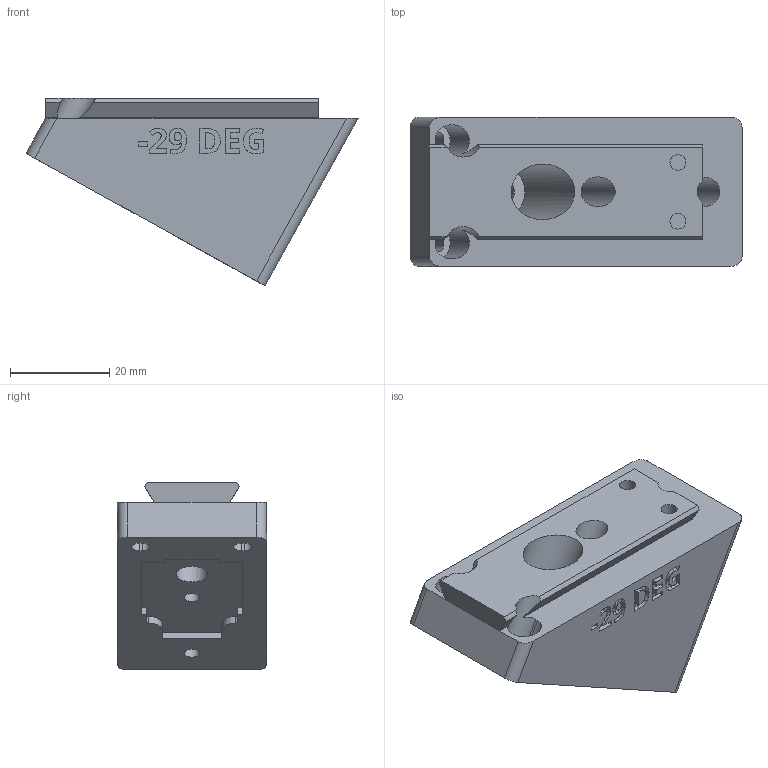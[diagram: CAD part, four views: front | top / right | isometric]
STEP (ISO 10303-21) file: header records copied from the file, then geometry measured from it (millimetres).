
FILE_DESCRIPTION(/* description */ ('STEP AP242 Edition 2','CAx-IF Rec.Pracs.---Representation and Presentation of Product Manufacturing Information (PMI)---4.0---2014-10-13','CAx-IF Rec.Pracs.---3D Tessellated Geometry---0.4---2014-09-14','2;1','CAx-IF Rec.Pracs.---User Defined Attributes---1.5---2016-08-15'),/* implementation_level */ '2;1');
FILE_NAME(/* name */ 'Camera Wedges - CAMERA MOUNTING WEDGE, NEG, -29 DEG',/* time_stamp */ '2026-08-11T00:07:43Z',/* author */ (''),/* organization */ (''),/* preprocessor_version */ 'ST-DEVELOPER v20',/* originating_system */ 'ONSHAPE BY PTC INC, 1.219',/* authorisation */ ' ');
FILE_SCHEMA (('AP242_MANAGED_MODEL_BASED_3D_ENGINEERING_MIM_LF { 1 0 10303 442 3 1 4 }'));
Length unit declared in the file: metre
Products named in the file (1): CAMERA MOUNTING WEDGE, NEG, -29 DEG
Bounding box: 66.77 x 30 x 37.77 mm (x, y, z)
Volume: 37119 mm3; surface area: 10671.5 mm2
Topology: 1 solids, 1 shells, 288 faces, 793 edges, 528 vertices
Faces by surface type: plane 144, bspline 86, cylinder 58
Full cylindrical faces by diameter (mm): 3.2 x4, 6 x2, 6.4 x1, 11.2 x1
Entity records: 9429 total; most frequent: CARTESIAN_POINT 2546, ORIENTED_EDGE 1568, DIRECTION 1149, EDGE_CURVE 784, VERTEX_POINT 527, LINE 481, VECTOR 481, AXIS2_PLACEMENT_3D 334
